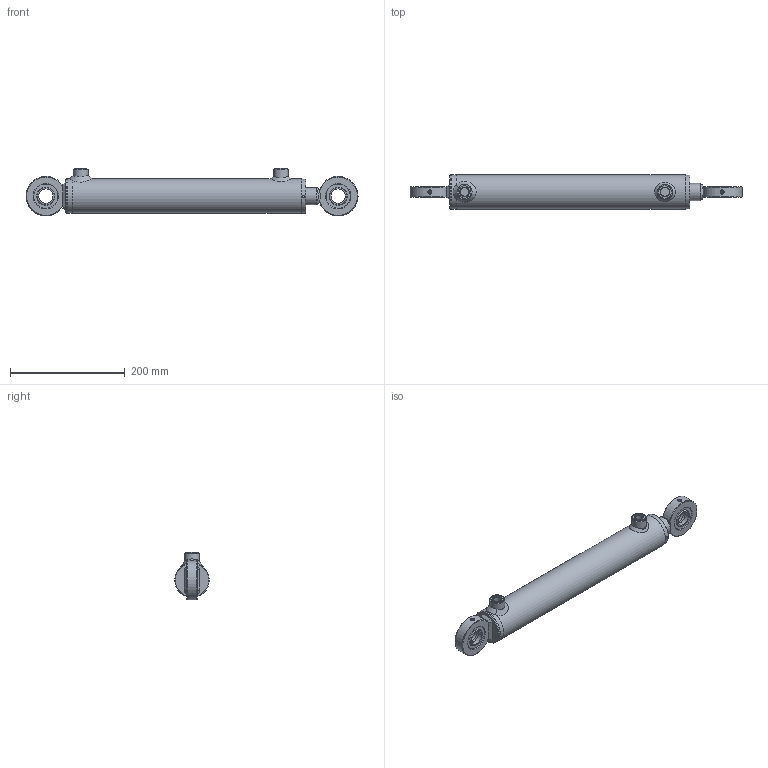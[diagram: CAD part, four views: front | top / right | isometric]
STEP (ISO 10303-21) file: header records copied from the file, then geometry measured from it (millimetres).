
FILE_DESCRIPTION( ( 'Unknown' ), '1' );
FILE_NAME( 'E:/LIBRERIA_3d/CILINDRI/HMC/HMC2300300.stp', 'Unknown', ( 'Unknown' ), ( 'Unknown' ), 'PSStep 17.0.49', 'Unknown', ' ' );
FILE_SCHEMA( ( 'AUTOMOTIVE_DESIGN { 1 0 10303 214 1 1 1 1 }' ) );
Length unit declared in the file: millimetre
Products named in the file (27): CT00050020; STL2500300-oa6; Saldatura d'angolo 1-oa4; FTM2500300-oa5; CBSC220600; CG06005030; CAGEG06904225; CAGE069042; cge0250000; HM02300300; CF00050060; CDA0002015; Saldatura con preparazione 1-oa2; Saldatura d'angolo 1-oa3; CBS0600000; APG0600000; SBL3020300; Assem1; Saldatura d'angolo 1-oa0; Saldatura d'angolo 2-oa1
Assembly tree (20 placements, depth 4):
  Saldatura d'angolo 1-oa4
  Saldatura d'angolo 1-oa4
  Saldatura d'angolo 1-oa3
  Saldatura d'angolo 1-oa3
  Assem1
    CAGEG06904225  x2
      CAGE069042
      cge0250000
    HM02300300
      CF00050060
      CDA0002015
      Saldatura con preparazione 1-oa2
      Saldatura con preparazione 1-oa2
      CBS0600000
      APG0600000  x2
      SBL3020300
      CG06005030
        CG06005030
      CT00050020
        CT00050020
      STL2500300-oa6
        FTM2500300-oa5
        CBSC220600
Bounding box: 578 x 60 x 83.5 mm (x, y, z)
Volume: 895620.8 mm3; surface area: 286144.5 mm2
Topology: 24 solids, 24 shells, 365 faces, 769 edges, 463 vertices
Faces by surface type: plane 108, bspline 94, cylinder 79, cone 42, torus 38, sphere 4
Full cylindrical faces by diameter (mm): 2 x4, 4 x2, 4.25 x1, 5 x4, 7 x2, 14.95 x2, 16 x2, 16.6 x2, 19.4 x1, 20 x5, 22 x2, 24.5 x1, 25 x4, 26 x2, 30 x5, 32 x1, 33 x1, 34 x1, 38.6 x1, 40 x3, 42 x6, 45 x1, 45.41 x2, 48.66 x2, 49.9 x1, 50 x1, 50.3 x1, 50.5 x1, 50.6 x1, 51 x1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
Entity records: 18053 total; most frequent: CARTESIAN_POINT 9751, DIRECTION 992, ORIENTED_EDGE 968, EDGE_LOOP 522, EDGE_CURVE 484, AXIS2_PLACEMENT_3D 452, FACE_OUTER_BOUND 429, VERTEX_POINT 357
